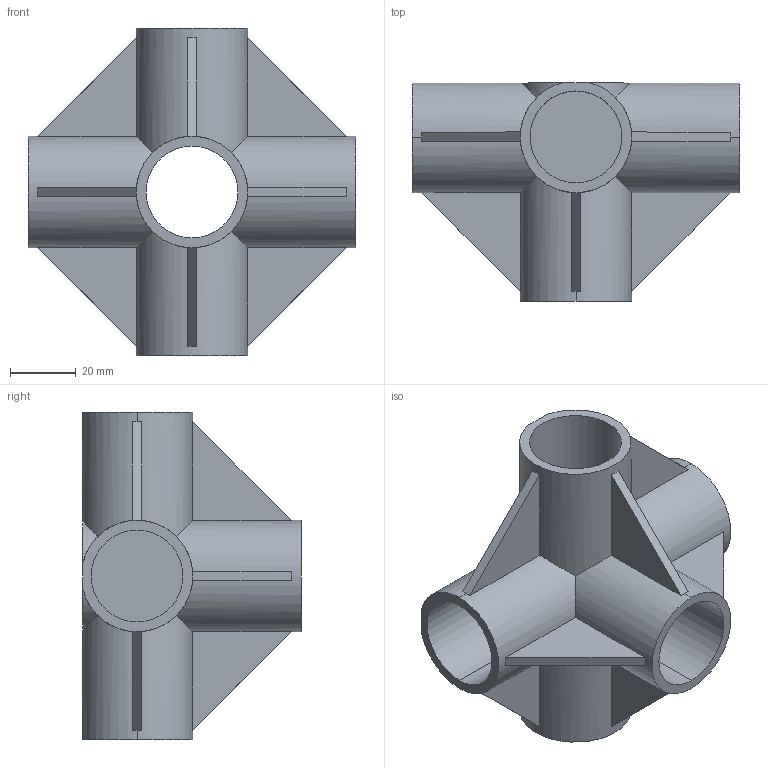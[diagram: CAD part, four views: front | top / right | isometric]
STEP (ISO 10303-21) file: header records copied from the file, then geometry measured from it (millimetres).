
FILE_DESCRIPTION (( 'STEP AP214' ), '1' );
FILE_NAME ('PJ-205.STEP', '2023-09-12T11:03:23', ( 'catia' ), ( 'HP Inc.' ), 'SwSTEP 2.0', 'SolidWorks 2021', '' );
FILE_SCHEMA (( 'AUTOMOTIVE_DESIGN' ));
Length unit declared in the file: millimetre
Products named in the file (1): PJ-205
Bounding box: 100 x 66.5 x 100 mm (x, y, z)
Volume: 82008.3 mm3; surface area: 46107.2 mm2
Topology: 1 solids, 1 shells, 62 faces, 168 edges, 112 vertices
Faces by surface type: plane 34, cylinder 28
Entity records: 1988 total; most frequent: CARTESIAN_POINT 493, ORIENTED_EDGE 336, DIRECTION 282, EDGE_CURVE 168, VERTEX_POINT 112, AXIS2_PLACEMENT_3D 101, LINE 80, VECTOR 80
